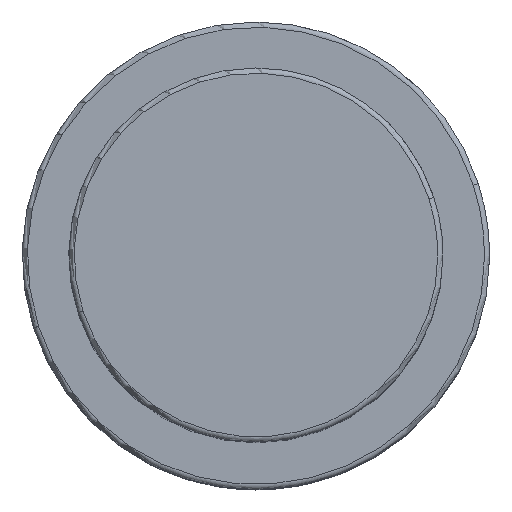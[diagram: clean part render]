
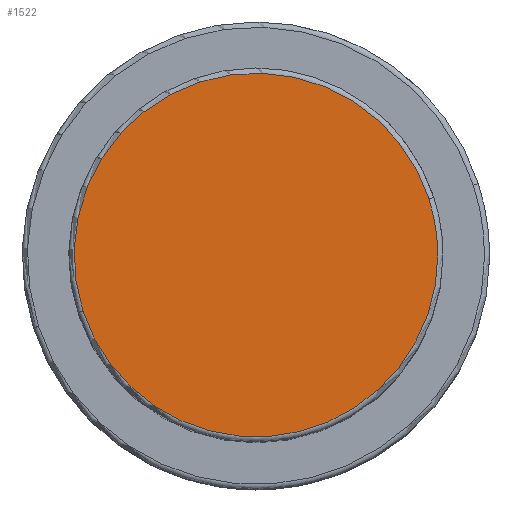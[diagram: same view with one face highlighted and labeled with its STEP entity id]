
A CAD part, top view. The second image highlights one B-rep face of the part: STEP entity #1522.
In plain terms, the highlighted planar face has unit normal (0, 0, 1).
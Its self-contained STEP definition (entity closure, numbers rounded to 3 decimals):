
#1455=CARTESIAN_POINT('',(16.643,5.408,68.0));
#1456=VERTEX_POINT('',#1455);
#1474=CARTESIAN_POINT('',(-16.643,-5.408,68.0));
#1475=VERTEX_POINT('',#1474);
#1483=CARTESIAN_POINT('',(0.0,0.0,68.0));
#1484=DIRECTION('',(0.0,0.0,1.0));
#1485=DIRECTION('',(1.0,0.0,0.0));
#1486=AXIS2_PLACEMENT_3D('',#1483,#1484,#1485);
#1487=CIRCLE('',#1486,17.5);
#1488=EDGE_CURVE('no 1749',#1456,#1475,#1487,.T.);
#1498=CARTESIAN_POINT('',(17.5,0.0,68.0));
#1499=VERTEX_POINT('',#1498);
#1500=CARTESIAN_POINT('',(0.0,0.0,68.0));
#1501=DIRECTION('',(0.0,0.0,1.0));
#1502=DIRECTION('',(1.0,0.0,0.0));
#1503=AXIS2_PLACEMENT_3D('',#1500,#1501,#1502);
#1504=CIRCLE('',#1503,17.5);
#1505=EDGE_CURVE('no 1758',#1499,#1456,#1504,.T.);
#1506=ORIENTED_EDGE('',*,*,#1505,.T.);
#1507=ORIENTED_EDGE('',*,*,#1488,.T.);
#1508=CARTESIAN_POINT('',(0.0,0.0,68.0));
#1509=DIRECTION('',(0.0,0.0,1.0));
#1510=DIRECTION('',(1.0,0.0,0.0));
#1511=AXIS2_PLACEMENT_3D('',#1508,#1509,#1510);
#1512=CIRCLE('',#1511,17.5);
#1513=EDGE_CURVE('no 1764',#1475,#1499,#1512,.T.);
#1514=ORIENTED_EDGE('',*,*,#1513,.T.);
#1515=EDGE_LOOP('',(#1506,#1507,#1514));
#1516=FACE_OUTER_BOUND('',#1515,.T.);
#1517=CARTESIAN_POINT('',(0.0,0.0,68.0));
#1518=DIRECTION('',(0.0,0.0,1.0));
#1519=DIRECTION('',(1.0,0.0,0.0));
#1520=AXIS2_PLACEMENT_3D('',#1517,#1518,#1519);
#1521=PLANE('',#1520);
#1522=ADVANCED_FACE('no 1751',(#1516),#1521,.T.);
